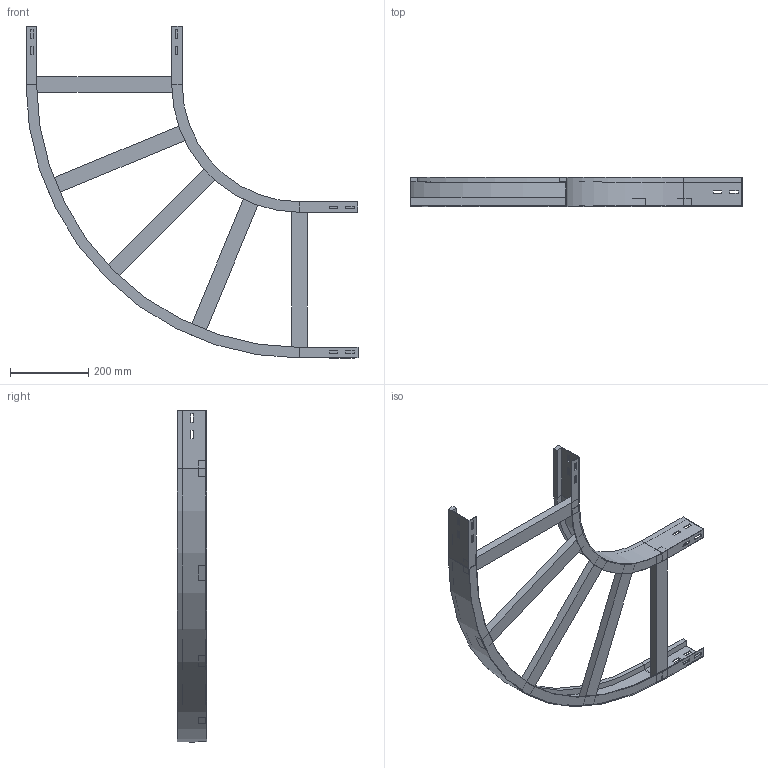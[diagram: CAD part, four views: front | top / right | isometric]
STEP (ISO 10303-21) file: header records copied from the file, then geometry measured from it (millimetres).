
FILE_DESCRIPTION (( 'STEP AP214' ), '1' );
FILE_NAME ('A2_10B3C400.step', '2025-02-21T15:26:23', ( '' ), ( '' ), 'SwSTEP 2.0', 'SolidWorks 2023', '' );
FILE_SCHEMA (( 'AUTOMOTIVE_DESIGN' ));
Length unit declared in the file: millimetre
Products named in the file (4): A2_LONGH.ESTERNO 90°_H75_R300+400; A2_10B3C400; A2_LONGH.INTERNO 90°_H75_R300; TRAVERSINO_400
Assembly tree (7 placements, depth 2):
  A2_10B3C400
    A2_LONGH.INTERNO 90°_H75_R300
    A2_LONGH.ESTERNO 90°_H75_R300+400
    TRAVERSINO_400  x5
Bounding box: 850 x 75 x 850 mm (x, y, z)
Volume: 2449824.2 mm3; surface area: 758483.9 mm2
Topology: 7 solids, 7 shells, 146 faces, 364 edges, 232 vertices
Faces by surface type: plane 138, cylinder 8
Entity records: 3837 total; most frequent: CARTESIAN_POINT 648, ORIENTED_EDGE 632, DIRECTION 596, EDGE_CURVE 316, LINE 300, VECTOR 300, VERTEX_POINT 200, EDGE_LOOP 154
